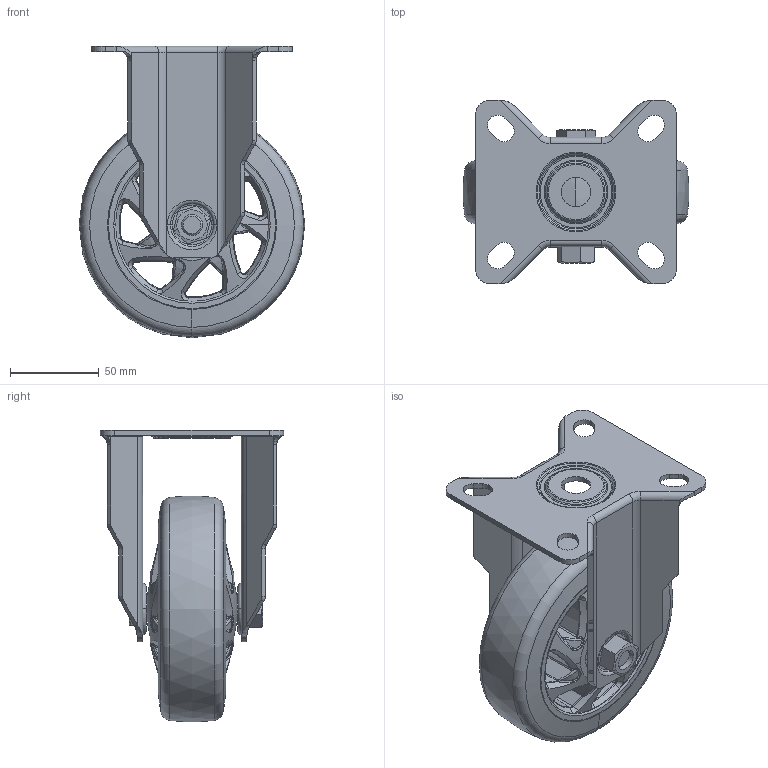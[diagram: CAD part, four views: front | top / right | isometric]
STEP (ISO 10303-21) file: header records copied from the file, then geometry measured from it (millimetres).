
FILE_DESCRIPTION (( 'STEP AP203' ), '1' );
FILE_NAME ('5渡嘐隅.STEP', '2025-01-03T08:12:33', ( '' ), ( '' ), 'SwSTEP 2.0', 'SolidWorks 2023', '' );
FILE_SCHEMA (( 'CONFIG_CONTROL_DESIGN' ));
Length unit declared in the file: millimetre
Products named in the file (8): 复件 (3) ^_5寸固定(2)_5寸固定; 5寸固定; 复件 (4) ^_5寸固定(2)_5寸固定; 5寸固定(2)^5寸固定; 复件 (5) ^_5寸固定(2)_5寸固定; 复件 (2) ^_5寸固定(2)_5寸固定; ^5寸固定(2)_5寸固定; ^_5寸固定(2)_5寸固定
Assembly tree (7 placements, depth 4):
  5寸固定
    5寸固定(2)^5寸固定
      ^5寸固定(2)_5寸固定
        ^_5寸固定(2)_5寸固定
        复件 (2) ^_5寸固定(2)_5寸固定
        复件 (3) ^_5寸固定(2)_5寸固定
        复件 (4) ^_5寸固定(2)_5寸固定
        复件 (5) ^_5寸固定(2)_5寸固定
Bounding box: 126.83 x 103 x 163.91 mm (x, y, z)
Volume: 591380.7 mm3; surface area: 148712.7 mm2
Topology: 5 solids, 5 shells, 926 faces, 2307 edges, 1382 vertices
Faces by surface type: bspline 402, plane 209, cylinder 149, cone 96, torus 66, sphere 4
Entity records: 53831 total; most frequent: CARTESIAN_POINT 34729, ORIENTED_EDGE 4602, DIRECTION 2580, EDGE_CURVE 2301, VERTEX_POINT 1380, B_SPLINE_CURVE_WITH_KNOTS 1129, EDGE_LOOP 977, AXIS2_PLACEMENT_3D 950
